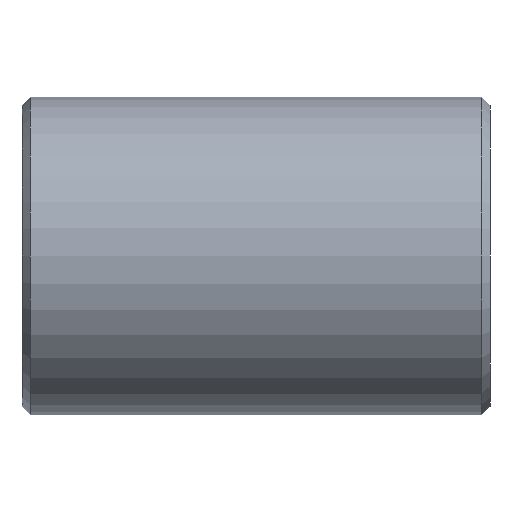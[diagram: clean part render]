
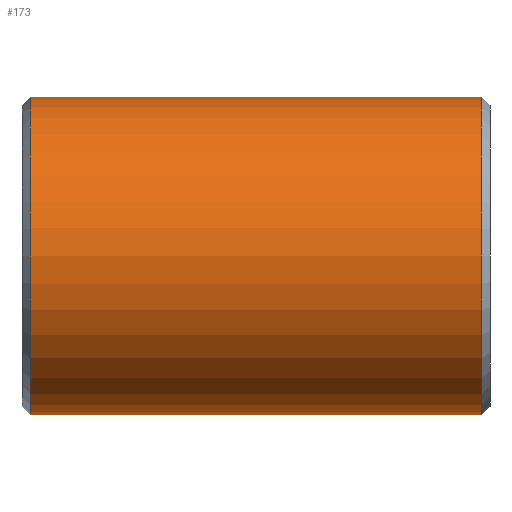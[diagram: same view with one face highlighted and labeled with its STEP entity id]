
A CAD part, front view. The second image highlights one B-rep face of the part: STEP entity #173.
In plain terms, the highlighted cylindrical face has radius 19 mm (diameter 38 mm), a partial arc.
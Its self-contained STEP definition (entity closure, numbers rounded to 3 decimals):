
#18 = CARTESIAN_POINT ( 'NONE',  ( 1., 0., -19. ) ) ;
#21 = LINE ( 'NONE', #248, #321 ) ;
#31 = CYLINDRICAL_SURFACE ( 'NONE', #74, 19. ) ;
#32 = DIRECTION ( 'NONE',  ( -1., 0., 0. ) ) ;
#43 = CARTESIAN_POINT ( 'NONE',  ( 0., 0., -19. ) ) ;
#44 = ORIENTED_EDGE ( 'NONE', *, *, #362, .T. ) ;
#48 = CARTESIAN_POINT ( 'NONE',  ( 0., 0., 0. ) ) ;
#56 = VERTEX_POINT ( 'NONE', #329 ) ;
#57 = ORIENTED_EDGE ( 'NONE', *, *, #184, .F. ) ;
#62 = VERTEX_POINT ( 'NONE', #18 ) ;
#71 = VERTEX_POINT ( 'NONE', #395 ) ;
#74 = AXIS2_PLACEMENT_3D ( 'NONE', #48, #288, #189 ) ;
#87 = DIRECTION ( 'NONE',  ( -1., 0., 0. ) ) ;
#100 = LINE ( 'NONE', #43, #413 ) ;
#101 = AXIS2_PLACEMENT_3D ( 'NONE', #195, #392, #156 ) ;
#102 = AXIS2_PLACEMENT_3D ( 'NONE', #421, #185, #382 ) ;
#121 = EDGE_CURVE ( 'NONE', #332, #56, #218, .T. ) ;
#156 = DIRECTION ( 'NONE',  ( 0., 0., 1. ) ) ;
#173 = ADVANCED_FACE ( 'NONE', ( #207 ), #31, .T. ) ;
#184 = EDGE_CURVE ( 'NONE', #332, #62, #100, .T. ) ;
#185 = DIRECTION ( 'NONE',  ( 1., 0., 0. ) ) ;
#189 = DIRECTION ( 'NONE',  ( 0., 0., 1. ) ) ;
#195 = CARTESIAN_POINT ( 'NONE',  ( 55., 0., 0. ) ) ;
#207 = FACE_OUTER_BOUND ( 'NONE', #349, .T. ) ;
#215 = EDGE_CURVE ( 'NONE', #71, #62, #217, .T. ) ;
#217 = CIRCLE ( 'NONE', #102, 19. ) ;
#218 = CIRCLE ( 'NONE', #101, 19. ) ;
#248 = CARTESIAN_POINT ( 'NONE',  ( 0., 0., 19. ) ) ;
#288 = DIRECTION ( 'NONE',  ( -1., 0., 0. ) ) ;
#321 = VECTOR ( 'NONE', #32, 1000. ) ;
#329 = CARTESIAN_POINT ( 'NONE',  ( 55., 0., 19. ) ) ;
#330 = ORIENTED_EDGE ( 'NONE', *, *, #121, .T. ) ;
#332 = VERTEX_POINT ( 'NONE', #352 ) ;
#349 = EDGE_LOOP ( 'NONE', ( #57, #330, #44, #434 ) ) ;
#352 = CARTESIAN_POINT ( 'NONE',  ( 55., 0., -19. ) ) ;
#362 = EDGE_CURVE ( 'NONE', #56, #71, #21, .T. ) ;
#382 = DIRECTION ( 'NONE',  ( 0., 0., -1. ) ) ;
#392 = DIRECTION ( 'NONE',  ( -1., 0., 0. ) ) ;
#395 = CARTESIAN_POINT ( 'NONE',  ( 1., 0., 19. ) ) ;
#413 = VECTOR ( 'NONE', #87, 1000. ) ;
#421 = CARTESIAN_POINT ( 'NONE',  ( 1., 0., 0. ) ) ;
#434 = ORIENTED_EDGE ( 'NONE', *, *, #215, .T. ) ;
